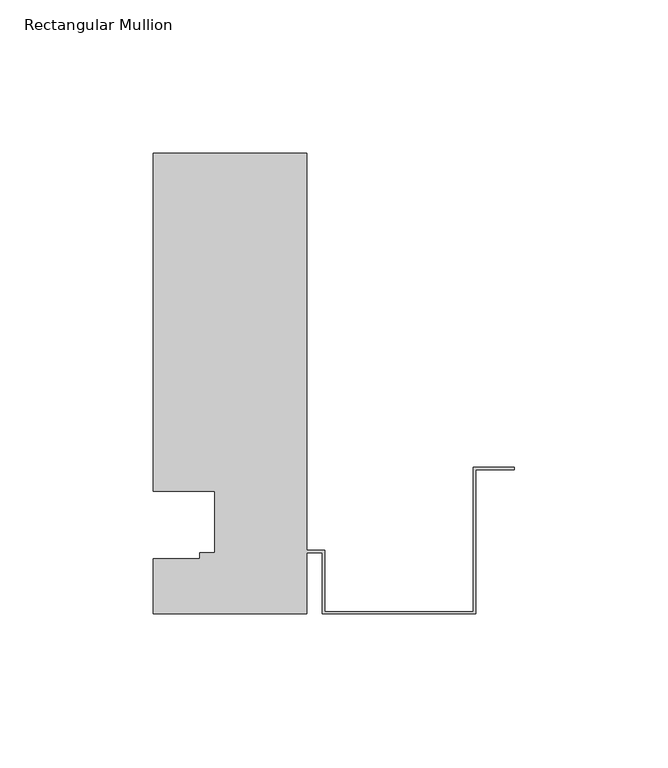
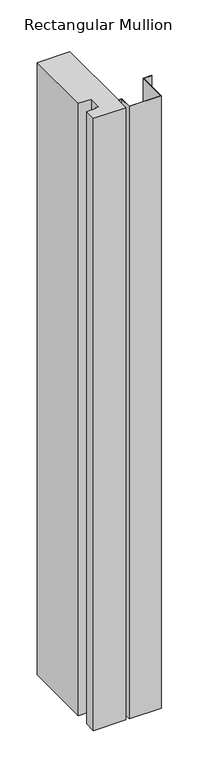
"""IFC4 building model written with IfcOpenShell, lengths in millimetres: member geometry, Rectangular Mullion : TR_CW_ALU_border_TR."""

from ifc_helpers import new_model, si_unit, frame, origin, place, context, project, spatial, polyline, outline, extrude, source, transform, mapped, element, save


def rectangular_mullion_86b3e6d7(model_context):
    return source(origin(), model_context, "Body", "SweptSolid", [
        extrude(outline(polyline([(-117.5, 0.0), (-117.5, 18.0204111), (-102.5, 18.0204111), (-102.5, 20.0), (-97.5, 20.0), (-97.5, 40.0), (-117.5, 40.0), (-117.5, 150.0), (-67.5, 150.0), (-67.5, 20.8), (-61.7, 20.8), (-61.7, 0.8), (-13.3, 0.8), (-13.3, 47.8), (0.0, 47.8), (0.0, 47.0), (-12.5, 47.0), (-12.5, 0.0), (-62.5, 0.0), (-62.5, 20.0), (-67.5, 20.0), (-67.5, 0.0), (-117.5, 0.0)])), frame((0.0, 0.0, -1000.0), z_axis=(0.0, 0.0, 1.0), x_axis=(1.0, 0.0, 0.0)), (0.0, 0.0, 1.0), 1000.0),
    ])


if __name__ == "__main__":
    model = new_model("IFC4")
    model_context = context("Model", 3, world=origin())
    ifc_project = project(units=[si_unit("LENGTHUNIT", "METRE", prefix="MILLI")], contexts=[model_context])
    site = spatial("IfcSite", under=ifc_project)
    building = spatial("IfcBuilding", under=site)
    placement = place(None, origin())
    rectangular_mullion_shape = rectangular_mullion_86b3e6d7(model_context)
    element("IfcMember", 1, ObjectType="Rectangular Mullion : TR_CW_ALU_border_TR", at=placement, inside=building, context=model_context, shape_type="MappedRepresentation", body=[
        mapped(rectangular_mullion_shape, transform((0.0, 0.0, 0.0), x_axis=(1.0, 0.0, 0.0), y_axis=(0.0, 1.0, 0.0), z_axis=(0.0, 0.0, 1.0))),
    ])
    save(model, "model.ifc")
